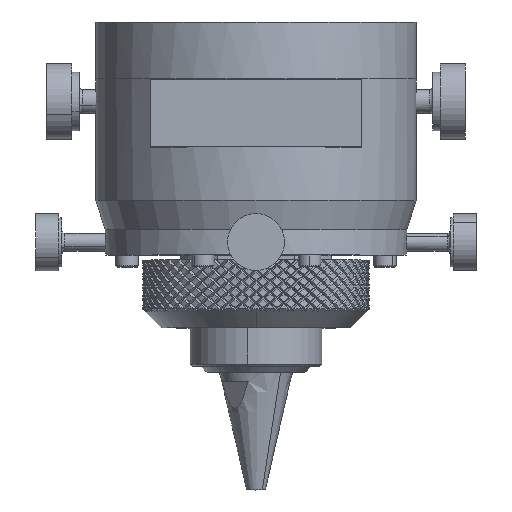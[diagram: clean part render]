
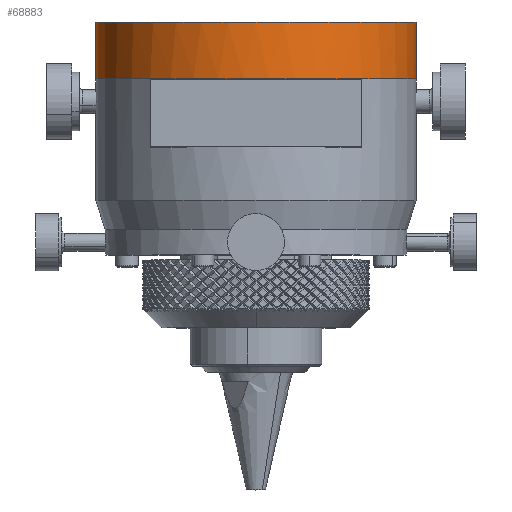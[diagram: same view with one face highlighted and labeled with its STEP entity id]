
A CAD part, top view. The second image highlights one B-rep face of the part: STEP entity #68883.
In plain terms, the highlighted cylindrical face has radius 26.988 mm (diameter 53.975 mm), a partial arc.
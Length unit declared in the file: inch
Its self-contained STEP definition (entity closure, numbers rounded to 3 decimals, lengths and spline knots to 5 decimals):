
#1689 = CARTESIAN_POINT ( 'NONE',  ( -1.0625, 1., 0. ) ) ;
#2369 = ORIENTED_EDGE ( 'NONE', *, *, #29429, .F. ) ;
#5019 = AXIS2_PLACEMENT_3D ( 'NONE', #50393, #35743, #56853 ) ;
#5295 = DIRECTION ( 'NONE',  ( 0., 1., 0. ) ) ;
#5669 = CARTESIAN_POINT ( 'NONE',  ( 0., 1.375, 0. ) ) ;
#7319 = VECTOR ( 'NONE', #53604, 39.37008 ) ;
#9886 = VECTOR ( 'NONE', #55637, 39.37008 ) ;
#11134 = CARTESIAN_POINT ( 'NONE',  ( 0., 1., 0. ) ) ;
#12328 = CARTESIAN_POINT ( 'NONE',  ( 1.0625, 1., 0. ) ) ;
#13316 = EDGE_LOOP ( 'NONE', ( #2369, #79405, #38674, #53695, #70927, #89071 ) ) ;
#14033 = AXIS2_PLACEMENT_3D ( 'NONE', #23781, #80387, #87762 ) ;
#20879 = LINE ( 'NONE', #68494, #9886 ) ;
#21369 = AXIS2_PLACEMENT_3D ( 'NONE', #5669, #39634, #54583 ) ;
#23781 = CARTESIAN_POINT ( 'NONE',  ( 0., 1., 0. ) ) ;
#26920 = VERTEX_POINT ( 'NONE', #53863 ) ;
#29429 = EDGE_CURVE ( 'NONE', #26920, #72194, #20879, .T. ) ;
#31063 = CIRCLE ( 'NONE', #5019, 1.0625 ) ;
#35476 = CIRCLE ( 'NONE', #51742, 1.0625 ) ;
#35743 = DIRECTION ( 'NONE',  ( 0., 1., 0. ) ) ;
#38674 = ORIENTED_EDGE ( 'NONE', *, *, #53395, .T. ) ;
#39634 = DIRECTION ( 'NONE',  ( 0., -1., 0. ) ) ;
#39969 = CARTESIAN_POINT ( 'NONE',  ( 0., 1.375, 0. ) ) ;
#40440 = DIRECTION ( 'NONE',  ( 1., 0., 0. ) ) ;
#44289 = VERTEX_POINT ( 'NONE', #1689 ) ;
#47612 = CARTESIAN_POINT ( 'NONE',  ( -1.0625, 1.375, 0. ) ) ;
#47935 = EDGE_CURVE ( 'NONE', #44289, #53998, #31063, .T. ) ;
#49017 = CARTESIAN_POINT ( 'NONE',  ( -1.0625, 1.375, 0. ) ) ;
#50393 = CARTESIAN_POINT ( 'NONE',  ( 0., 1., 0. ) ) ;
#51742 = AXIS2_PLACEMENT_3D ( 'NONE', #39969, #88687, #81962 ) ;
#53395 = EDGE_CURVE ( 'NONE', #54075, #44289, #85172, .T. ) ;
#53604 = DIRECTION ( 'NONE',  ( 0., -1., 0. ) ) ;
#53695 = ORIENTED_EDGE ( 'NONE', *, *, #47935, .T. ) ;
#53863 = CARTESIAN_POINT ( 'NONE',  ( 1.0625, 1.375, 0. ) ) ;
#53998 = VERTEX_POINT ( 'NONE', #86271 ) ;
#54075 = VERTEX_POINT ( 'NONE', #47612 ) ;
#54583 = DIRECTION ( 'NONE',  ( -1., 0., 0. ) ) ;
#55637 = DIRECTION ( 'NONE',  ( 0., -1., 0. ) ) ;
#56853 = DIRECTION ( 'NONE',  ( 1., 0., 0. ) ) ;
#57978 = CYLINDRICAL_SURFACE ( 'NONE', #21369, 1.0625 ) ;
#59361 = CIRCLE ( 'NONE', #63669, 1.0625 ) ;
#62373 = CIRCLE ( 'NONE', #14033, 1.0625 ) ;
#62687 = EDGE_CURVE ( 'NONE', #84151, #72194, #62373, .T. ) ;
#63669 = AXIS2_PLACEMENT_3D ( 'NONE', #11134, #5295, #40440 ) ;
#67044 = CARTESIAN_POINT ( 'NONE',  ( 0.701, 1., 0.79844 ) ) ;
#68494 = CARTESIAN_POINT ( 'NONE',  ( 1.0625, 1.375, 0. ) ) ;
#68883 = ADVANCED_FACE ( 'NONE', ( #76633 ), #57978, .T. ) ;
#70927 = ORIENTED_EDGE ( 'NONE', *, *, #83494, .T. ) ;
#72194 = VERTEX_POINT ( 'NONE', #12328 ) ;
#76633 = FACE_OUTER_BOUND ( 'NONE', #13316, .T. ) ;
#79405 = ORIENTED_EDGE ( 'NONE', *, *, #82064, .F. ) ;
#80387 = DIRECTION ( 'NONE',  ( 0., 1., 0. ) ) ;
#81962 = DIRECTION ( 'NONE',  ( 1., 0., 0. ) ) ;
#82064 = EDGE_CURVE ( 'NONE', #54075, #26920, #35476, .T. ) ;
#83494 = EDGE_CURVE ( 'NONE', #53998, #84151, #59361, .T. ) ;
#84151 = VERTEX_POINT ( 'NONE', #67044 ) ;
#85172 = LINE ( 'NONE', #49017, #7319 ) ;
#86271 = CARTESIAN_POINT ( 'NONE',  ( -0.701, 1., 0.79844 ) ) ;
#87762 = DIRECTION ( 'NONE',  ( 1., 0., 0. ) ) ;
#88687 = DIRECTION ( 'NONE',  ( 0., 1., 0. ) ) ;
#89071 = ORIENTED_EDGE ( 'NONE', *, *, #62687, .T. ) ;
